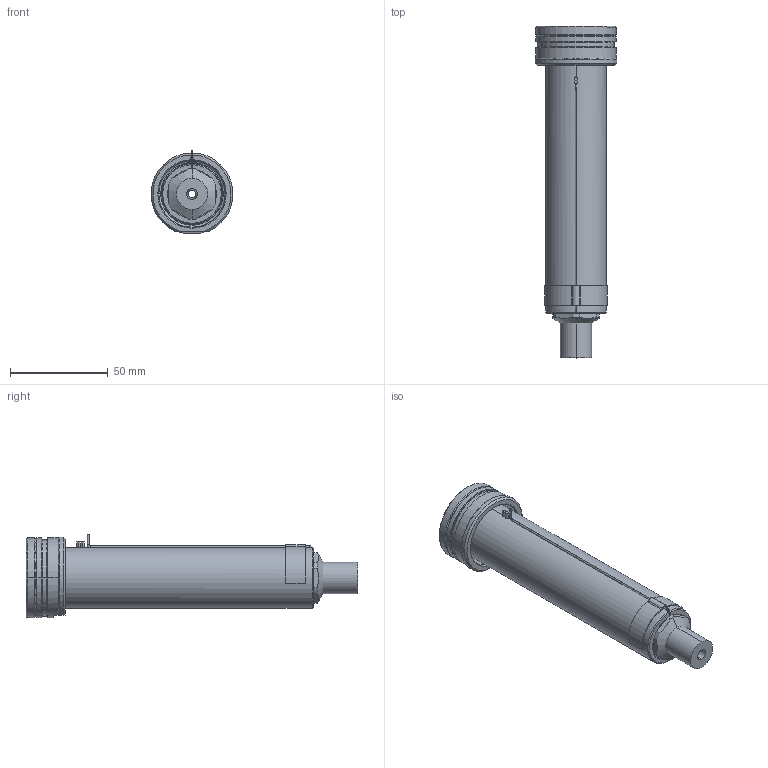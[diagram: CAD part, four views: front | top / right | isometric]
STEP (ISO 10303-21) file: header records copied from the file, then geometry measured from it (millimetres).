
FILE_DESCRIPTION((''),'2;1');
FILE_NAME('EO12_VG-FBE_WR_140_SW','2024-02-19T14:07:50',('sundharh'),(''),'CREO PARAMETRIC BY PTC INC, 2023154','CREO PARAMETRIC BY PTC INC, 2023154','');
FILE_SCHEMA(('CONFIG_CONTROL_DESIGN'));
Length unit declared in the file: millimetre
Products named in the file (1): EO12_VG-FBE_WR_140_SW
Bounding box: 41.85 x 170 x 43 mm (x, y, z)
Volume: 108094.6 mm3; surface area: 30136.7 mm2
Topology: 2 solids, 3 shells, 211 faces, 513 edges, 309 vertices
Faces by surface type: cylinder 73, plane 47, cone 43, torus 37, bspline 9, sphere 2
Entity records: 7027 total; most frequent: CARTESIAN_POINT 1956, DIRECTION 1144, ORIENTED_EDGE 1018, EDGE_CURVE 509, AXIS2_PLACEMENT_3D 484, VERTEX_POINT 309, CIRCLE 282, EDGE_LOOP 228
